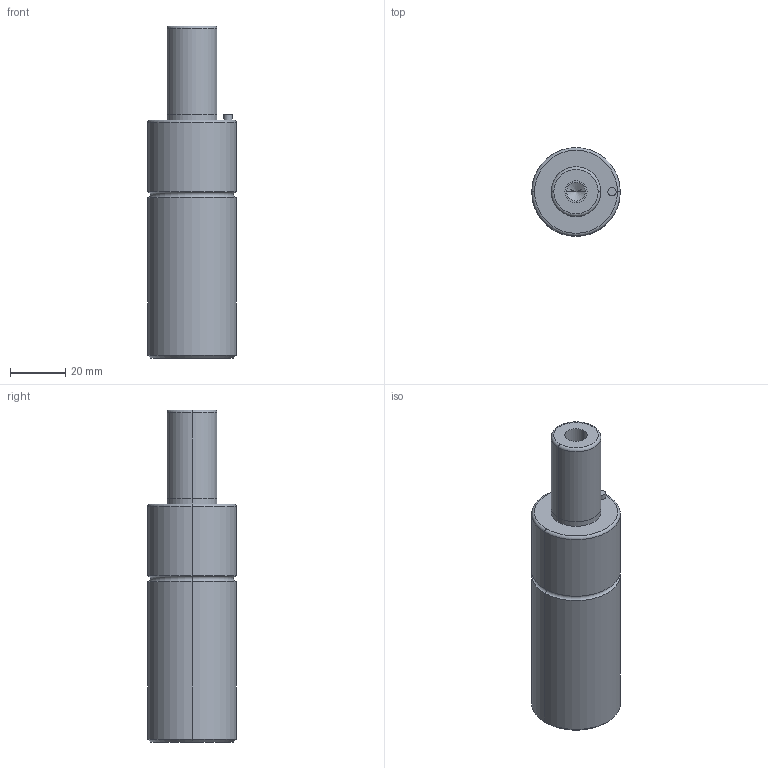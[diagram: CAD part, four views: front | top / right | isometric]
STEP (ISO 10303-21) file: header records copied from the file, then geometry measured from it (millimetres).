
FILE_DESCRIPTION(/* description */ (''),/* implementation_level */ '2;1');
FILE_NAME(/* name */ '3d_gsm32-32_03922_r00.stp',/* time_stamp */ '2011-01-10T14:15:16+09:00',/* author */ ('MISUMI'),/* organization */ (''),/* preprocessor_version */ 'ST-DEVELOPER v11',/* originating_system */ 'UGS - NX 5.0',/* authorisation */ '');
FILE_SCHEMA (('CONFIG_CONTROL_DESIGN'));
Length unit declared in the file: millimetre
Products named in the file (1): 3d_gsm32-32_03922_r00
Bounding box: 32 x 32 x 120 mm (x, y, z)
Volume: 76188 mm3; surface area: 13034.3 mm2
Topology: 1 solids, 1 shells, 50 faces, 106 edges, 60 vertices
Faces by surface type: cylinder 26, cone 10, plane 8, torus 6
Entity records: 1382 total; most frequent: DIRECTION 262, CARTESIAN_POINT 209, ORIENTED_EDGE 196, AXIS2_PLACEMENT_3D 113, EDGE_CURVE 98, CIRCLE 62, EDGE_LOOP 60, VERTEX_POINT 60
